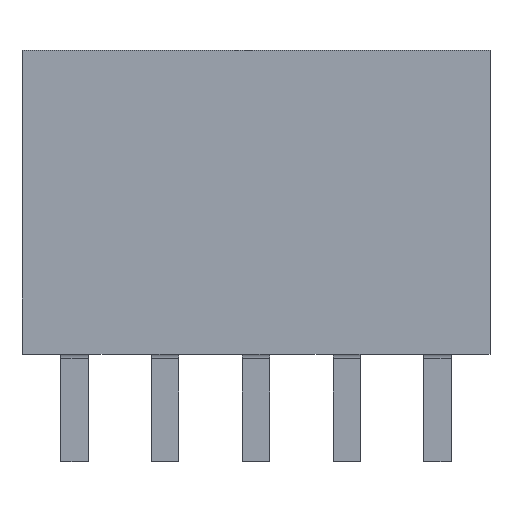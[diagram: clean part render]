
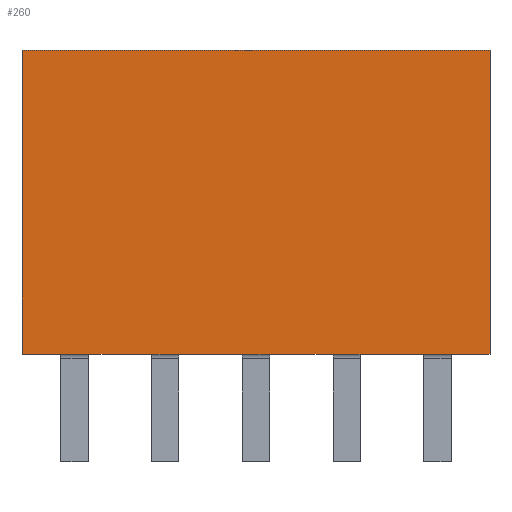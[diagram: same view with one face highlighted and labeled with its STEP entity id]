
A CAD part, top view. The second image highlights one B-rep face of the part: STEP entity #260.
In plain terms, the highlighted planar face has unit normal (0, 0, 1).
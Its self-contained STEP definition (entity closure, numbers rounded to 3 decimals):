
#260=ADVANCED_FACE('',(#740),#520,.T.);
#520=PLANE('',#5086);
#740=FACE_OUTER_BOUND('',#999,.T.);
#999=EDGE_LOOP('',(#1328,#1329,#1330,#1331));
#1328=ORIENTED_EDGE('',*,*,#3146,.T.);
#1329=ORIENTED_EDGE('',*,*,#3190,.T.);
#1330=ORIENTED_EDGE('',*,*,#3191,.F.);
#1331=ORIENTED_EDGE('',*,*,#3187,.F.);
#2690=VERTEX_POINT('',#6764);
#2691=VERTEX_POINT('',#6766);
#2730=VERTEX_POINT('',#6850);
#2732=VERTEX_POINT('',#6856);
#3146=EDGE_CURVE('',#2691,#2690,#3850,.T.);
#3187=EDGE_CURVE('',#2691,#2730,#3891,.T.);
#3190=EDGE_CURVE('',#2690,#2732,#3894,.T.);
#3191=EDGE_CURVE('',#2730,#2732,#3895,.T.);
#3850=LINE('',#6765,#4474);
#3891=LINE('',#6849,#4515);
#3894=LINE('',#6855,#4518);
#3895=LINE('',#6857,#4519);
#4474=VECTOR('',#5441,1.);
#4515=VECTOR('',#5490,1.);
#4518=VECTOR('',#5495,1.);
#4519=VECTOR('',#5496,1.);
#5086=AXIS2_PLACEMENT_3D('',#6858,#5497,#5498);
#5441=DIRECTION('',(1.,0.,0.));
#5490=DIRECTION('',(0.,1.,0.));
#5495=DIRECTION('',(0.,1.,0.));
#5496=DIRECTION('',(1.,0.,0.));
#5497=DIRECTION('',(0.,0.,1.));
#5498=DIRECTION('',(-1.,0.,0.));
#6764=CARTESIAN_POINT('',(0.4,0.,0.));
#6765=CARTESIAN_POINT('',(-7.22,0.,0.));
#6766=CARTESIAN_POINT('',(-12.7,0.,0.));
#6849=CARTESIAN_POINT('',(-12.7,0.,0.));
#6850=CARTESIAN_POINT('',(-12.7,8.5,0.));
#6855=CARTESIAN_POINT('',(0.4,0.,0.));
#6856=CARTESIAN_POINT('',(0.4,8.5,0.));
#6857=CARTESIAN_POINT('',(-17.78,8.5,0.));
#6858=CARTESIAN_POINT('',(-17.78,0.,0.));
